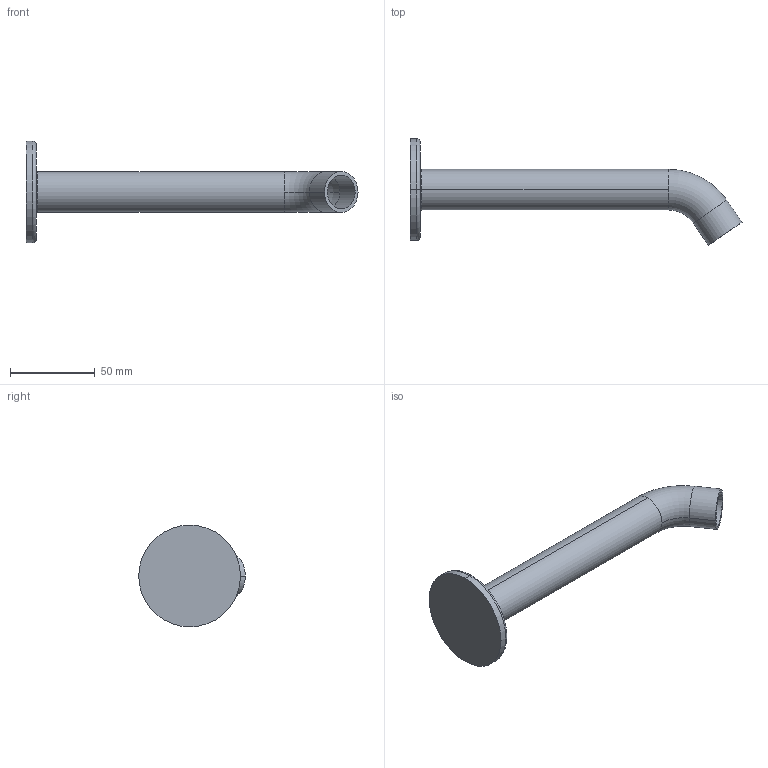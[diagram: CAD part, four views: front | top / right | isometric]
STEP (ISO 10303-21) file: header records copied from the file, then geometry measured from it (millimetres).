
FILE_DESCRIPTION (( 'STEP AP203' ), '1' );
FILE_NAME ('AZ 718.STEP', '2019-02-01T15:30:43', ( '' ), ( '' ), 'SwSTEP 2.0', 'SolidWorks 2019', '' );
FILE_SCHEMA (( 'CONFIG_CONTROL_DESIGN' ));
Length unit declared in the file: millimetre
Products named in the file (1): AZ 718
Bounding box: 195.89 x 62.8 x 60 mm (x, y, z)
Volume: 43247 mm3; surface area: 33015.6 mm2
Topology: 1 solids, 1 shells, 22 faces, 46 edges, 28 vertices
Faces by surface type: cylinder 10, torus 8, plane 4
Entity records: 679 total; most frequent: DIRECTION 128, CARTESIAN_POINT 97, ORIENTED_EDGE 92, AXIS2_PLACEMENT_3D 59, EDGE_CURVE 46, CIRCLE 36, VERTEX_POINT 28, EDGE_LOOP 24
